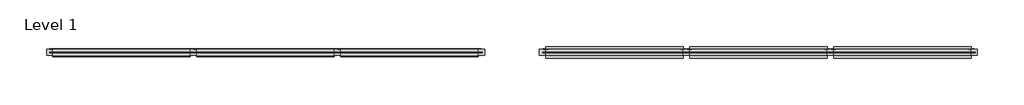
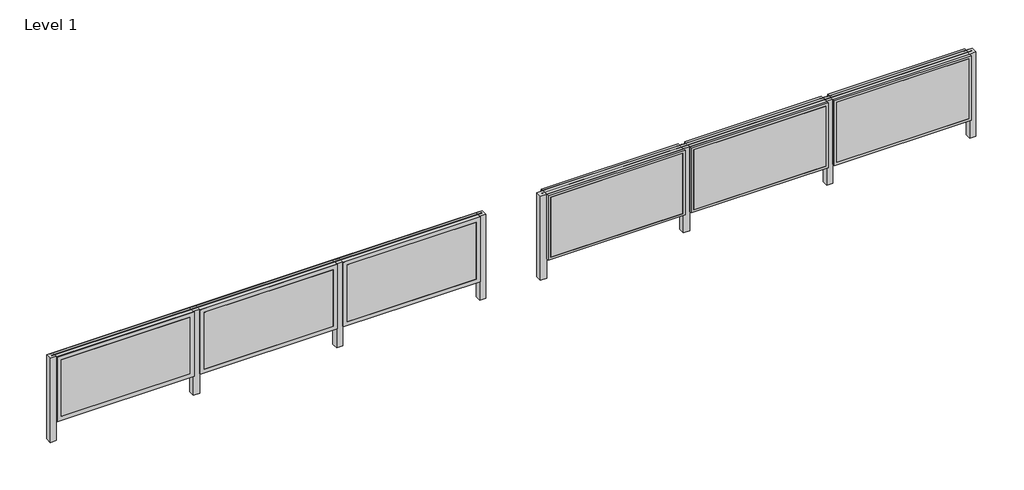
# One storey: 2 railings.
"""IFC4 building model written with IfcOpenShell, lengths in millimetres."""

from ifc_helpers import new_model, si_unit, origin, place, context, project, spatial, transform, mapped, element, save
from components import railing_42967de5, railing_a675b463

model = new_model("IFC4")

# Units and contexts
model_context = context("Model", 3, world=origin())
ifc_project = project(units=[si_unit("LENGTHUNIT", "METRE", prefix="MILLI")], contexts=[model_context])

# Site, building, storey
site = spatial("IfcSite", under=ifc_project)
building = spatial("IfcBuilding", under=site)
storey = spatial("IfcBuildingStorey", under=building, Name="Level 1", Elevation=0.0)

# Railings
placement = place(None, origin())
railing_shape = railing_42967de5(model_context)
element("IfcRailing", 1, ObjectType="NBS_MobilaneUK_CompFncPnls_NoiStop_Green", at=placement, inside=storey, context=model_context, shape_type="MappedRepresentation", body=[
    mapped(railing_shape, transform((0.0, 0.0, 0.0), x_axis=(1.0, 0.0, 0.0), y_axis=(0.0, 1.0, 0.0), z_axis=(0.0, 0.0, 1.0))),
])
railing_2_shape = railing_a675b463(model_context)
element("IfcRailing", 2, ObjectType="NBS_MobilaneUK_CompFncPnls_NoiStop_Wood", at=placement, inside=storey, context=model_context, shape_type="MappedRepresentation", body=[
    mapped(railing_2_shape, transform((0.0, 0.0, 0.0), x_axis=(1.0, 0.0, 0.0), y_axis=(0.0, 1.0, 0.0), z_axis=(0.0, 0.0, 1.0))),
])

save(model, "model.ifc")
